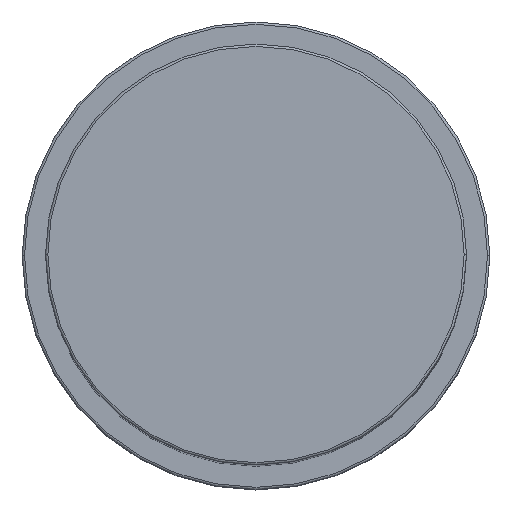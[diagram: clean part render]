
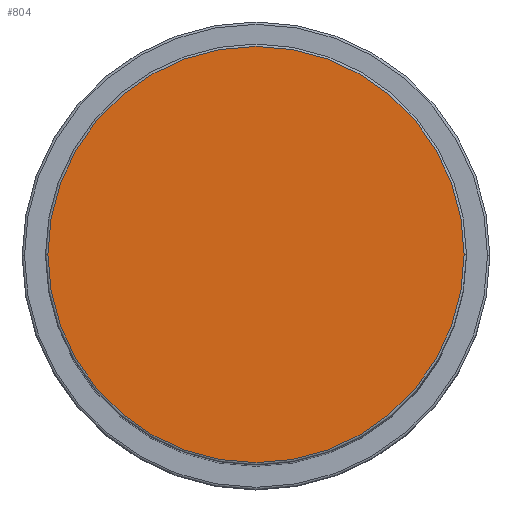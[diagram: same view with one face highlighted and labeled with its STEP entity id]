
A CAD part, top view. The second image highlights one B-rep face of the part: STEP entity #804.
In plain terms, the highlighted planar face has unit normal (0, 0, 1).
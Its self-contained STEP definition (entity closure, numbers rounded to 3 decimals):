
#9 = DIRECTION ( 'NONE',  ( 1., 0., 0. ) ) ;
#24 = ORIENTED_EDGE ( 'NONE', *, *, #75, .T. ) ;
#46 = AXIS2_PLACEMENT_3D ( 'NONE', #697, #1242, #9 ) ;
#56 = CIRCLE ( 'NONE', #1382, 44.5 ) ;
#75 = EDGE_CURVE ( 'NONE', #586, #664, #56, .T. ) ;
#99 = DIRECTION ( 'NONE',  ( 0., 0., 1. ) ) ;
#173 = FACE_OUTER_BOUND ( 'NONE', #1169, .T. ) ;
#214 = CIRCLE ( 'NONE', #492, 44.5 ) ;
#396 = PLANE ( 'NONE',  #46 ) ;
#492 = AXIS2_PLACEMENT_3D ( 'NONE', #874, #612, #1581 ) ;
#586 = VERTEX_POINT ( 'NONE', #1413 ) ;
#612 = DIRECTION ( 'NONE',  ( 0., 0., 1. ) ) ;
#664 = VERTEX_POINT ( 'NONE', #1019 ) ;
#687 = ORIENTED_EDGE ( 'NONE', *, *, #1738, .T. ) ;
#697 = CARTESIAN_POINT ( 'NONE',  ( 0., 0., 179. ) ) ;
#804 = ADVANCED_FACE ( 'NONE', ( #173 ), #396, .T. ) ;
#874 = CARTESIAN_POINT ( 'NONE',  ( 0., 0., 179. ) ) ;
#1019 = CARTESIAN_POINT ( 'NONE',  ( -44.5, 0., 179. ) ) ;
#1169 = EDGE_LOOP ( 'NONE', ( #24, #687 ) ) ;
#1199 = CARTESIAN_POINT ( 'NONE',  ( 0., 0., 179. ) ) ;
#1242 = DIRECTION ( 'NONE',  ( 0., 0., 1. ) ) ;
#1382 = AXIS2_PLACEMENT_3D ( 'NONE', #1199, #99, #1771 ) ;
#1413 = CARTESIAN_POINT ( 'NONE',  ( 44.5, 0., 179. ) ) ;
#1581 = DIRECTION ( 'NONE',  ( 1., 0., 0. ) ) ;
#1738 = EDGE_CURVE ( 'NONE', #664, #586, #214, .T. ) ;
#1771 = DIRECTION ( 'NONE',  ( 1., 0., 0. ) ) ;
